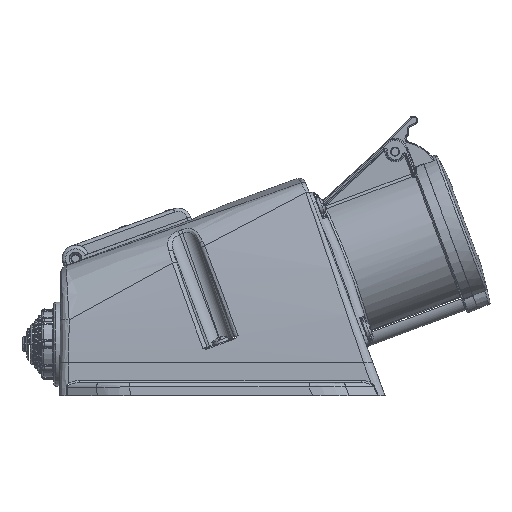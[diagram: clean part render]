
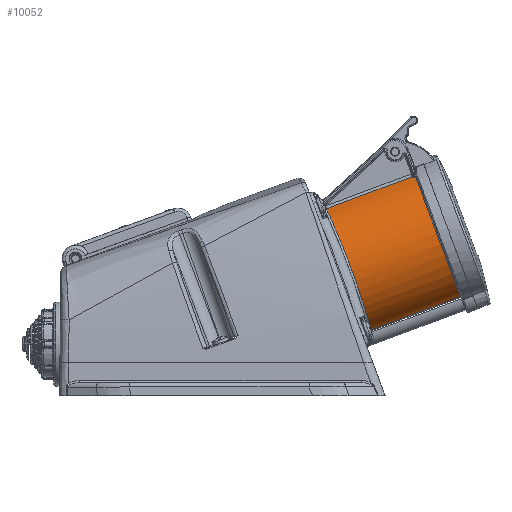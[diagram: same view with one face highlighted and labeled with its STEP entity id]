
A CAD part, left-side view. The second image highlights one B-rep face of the part: STEP entity #10052.
In plain terms, the highlighted cylindrical face has radius 31.4 mm (diameter 62.8 mm), a partial arc.
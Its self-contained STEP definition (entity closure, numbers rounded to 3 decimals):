
#1033=CYLINDRICAL_SURFACE('',#22205,31.4);
#1236=ELLIPSE('',#22204,31.524,31.4);
#2236=LINE('',#75232,#3278);
#2237=LINE('',#75236,#3279);
#2238=LINE('',#75257,#3280);
#3278=VECTOR('',#25277,1.);
#3279=VECTOR('',#25280,1.);
#3280=VECTOR('',#25283,1.);
#4566=B_SPLINE_CURVE_WITH_KNOTS('',3,(#75211,#75212,#75213,#75214,#75215,
#75216,#75217,#75218,#75219,#75220,#75221,#75222,#75223,#75224),
 .UNSPECIFIED.,.F.,.F.,(4,2,2,2,2,2,4),(0.,0.125,0.25,0.5,0.75,0.875,1.),
 .UNSPECIFIED.);
#4567=B_SPLINE_CURVE_WITH_KNOTS('',3,(#75227,#75228,#75229,#75230),
 .UNSPECIFIED.,.F.,.F.,(4,4),(0.,1.),.UNSPECIFIED.);
#4568=B_SPLINE_CURVE_WITH_KNOTS('',3,(#75238,#75239,#75240,#75241,#75242,
#75243,#75244,#75245,#75246,#75247,#75248,#75249,#75250,#75251,#75252,#75253),
 .UNSPECIFIED.,.F.,.F.,(4,3,3,3,3,4),(0.,0.191,0.382,
0.582,0.809,1.),.UNSPECIFIED.);
#10052=ADVANCED_FACE('',(#10925),#1033,.T.);
#10925=FACE_OUTER_BOUND('',#11751,.T.);
#11751=EDGE_LOOP('',(#15451,#15452,#15453,#15454,#15455,#15456,#15457,#15458));
#15451=ORIENTED_EDGE('',*,*,#20525,.T.);
#15452=ORIENTED_EDGE('',*,*,#20526,.T.);
#15453=ORIENTED_EDGE('',*,*,#20527,.T.);
#15454=ORIENTED_EDGE('',*,*,#20528,.T.);
#15455=ORIENTED_EDGE('',*,*,#20529,.T.);
#15456=ORIENTED_EDGE('',*,*,#20530,.T.);
#15457=ORIENTED_EDGE('',*,*,#20531,.T.);
#15458=ORIENTED_EDGE('',*,*,#20532,.T.);
#17781=VERTEX_POINT('',#75225);
#17782=VERTEX_POINT('',#75226);
#17783=VERTEX_POINT('',#75231);
#17784=VERTEX_POINT('',#75233);
#17785=VERTEX_POINT('',#75235);
#17786=VERTEX_POINT('',#75237);
#17787=VERTEX_POINT('',#75254);
#17788=VERTEX_POINT('',#75256);
#20525=EDGE_CURVE('',#17781,#17782,#4566,.T.);
#20526=EDGE_CURVE('',#17782,#17783,#4567,.T.);
#20527=EDGE_CURVE('',#17783,#17784,#2236,.T.);
#20528=EDGE_CURVE('',#17784,#17785,#21145,.T.);
#20529=EDGE_CURVE('',#17785,#17786,#2237,.T.);
#20530=EDGE_CURVE('',#17786,#17787,#4568,.T.);
#20531=EDGE_CURVE('',#17787,#17788,#1236,.T.);
#20532=EDGE_CURVE('',#17788,#17781,#2238,.T.);
#21145=CIRCLE('',#22203,31.4);
#22203=AXIS2_PLACEMENT_3D('',#75234,#25278,#25279);
#22204=AXIS2_PLACEMENT_3D('',#75255,#25281,#25282);
#22205=AXIS2_PLACEMENT_3D('',#75258,#25284,#25285);
#25277=DIRECTION('',(0.,-0.937,0.35));
#25278=DIRECTION('',(0.,0.937,-0.35));
#25279=DIRECTION('',(1.,0.,0.));
#25280=DIRECTION('',(0.,0.937,-0.35));
#25281=DIRECTION('',(-0.089,0.933,-0.349));
#25282=DIRECTION('',(0.996,0.083,-0.031));
#25283=DIRECTION('',(0.,0.937,-0.35));
#25284=DIRECTION('',(0.,0.937,-0.35));
#25285=DIRECTION('',(-0.141,0.347,0.927));
#75211=CARTESIAN_POINT('',(-0.891,-42.061,74.96));
#75212=CARTESIAN_POINT('',(-3.76,-42.698,73.562));
#75213=CARTESIAN_POINT('',(-6.321,-43.498,71.804));
#75214=CARTESIAN_POINT('',(-10.84,-45.381,67.56));
#75215=CARTESIAN_POINT('',(-12.716,-46.434,65.138));
#75216=CARTESIAN_POINT('',(-17.055,-49.783,57.158));
#75217=CARTESIAN_POINT('',(-18.106,-52.222,50.934));
#75218=CARTESIAN_POINT('',(-16.176,-56.512,38.977));
#75219=CARTESIAN_POINT('',(-13.16,-58.393,33.17));
#75220=CARTESIAN_POINT('',(-6.489,-60.432,26.539));
#75221=CARTESIAN_POINT('',(-3.87,-61.001,24.624));
#75222=CARTESIAN_POINT('',(1.772,-61.871,21.688));
#75223=CARTESIAN_POINT('',(4.847,-62.184,20.628));
#75224=CARTESIAN_POINT('',(8.044,-62.369,20.049));
#75225=CARTESIAN_POINT('',(-0.891,-42.061,74.96));
#75226=CARTESIAN_POINT('',(8.044,-62.369,20.049));
#75227=CARTESIAN_POINT('',(8.044,-62.369,20.049));
#75228=CARTESIAN_POINT('',(8.045,-62.382,20.054));
#75229=CARTESIAN_POINT('',(8.046,-62.395,20.059));
#75230=CARTESIAN_POINT('',(8.046,-62.408,20.063));
#75231=CARTESIAN_POINT('',(8.046,-62.408,20.063));
#75232=CARTESIAN_POINT('',(8.046,-95.777,32.54));
#75233=CARTESIAN_POINT('',(8.046,-102.803,35.166));
#75234=CARTESIAN_POINT('',(13.902,-91.999,64.062));
#75235=CARTESIAN_POINT('',(-2.339,-82.588,89.233));
#75236=CARTESIAN_POINT('',(-2.339,-75.563,86.607));
#75237=CARTESIAN_POINT('',(-2.339,-82.361,89.149));
#75238=CARTESIAN_POINT('',(-2.339,-82.361,89.149));
#75239=CARTESIAN_POINT('',(-2.339,-82.267,89.113));
#75240=CARTESIAN_POINT('',(-2.324,-82.169,89.086));
#75241=CARTESIAN_POINT('',(-2.295,-82.074,89.07));
#75242=CARTESIAN_POINT('',(-2.266,-81.98,89.053));
#75243=CARTESIAN_POINT('',(-2.223,-81.887,89.046));
#75244=CARTESIAN_POINT('',(-2.171,-81.802,89.047));
#75245=CARTESIAN_POINT('',(-2.116,-81.713,89.049));
#75246=CARTESIAN_POINT('',(-2.049,-81.63,89.06));
#75247=CARTESIAN_POINT('',(-1.975,-81.558,89.08));
#75248=CARTESIAN_POINT('',(-1.891,-81.476,89.101));
#75249=CARTESIAN_POINT('',(-1.797,-81.406,89.134));
#75250=CARTESIAN_POINT('',(-1.698,-81.351,89.173));
#75251=CARTESIAN_POINT('',(-1.615,-81.305,89.207));
#75252=CARTESIAN_POINT('',(-1.528,-81.269,89.246));
#75253=CARTESIAN_POINT('',(-1.441,-81.245,89.289));
#75254=CARTESIAN_POINT('',(-1.441,-81.245,89.289));
#75255=CARTESIAN_POINT('',(13.902,-89.562,63.151));
#75256=CARTESIAN_POINT('',(-0.891,-81.094,89.554));
#75257=CARTESIAN_POINT('',(-0.891,-60.519,81.861));
#75258=CARTESIAN_POINT('',(13.902,-84.974,61.435));
